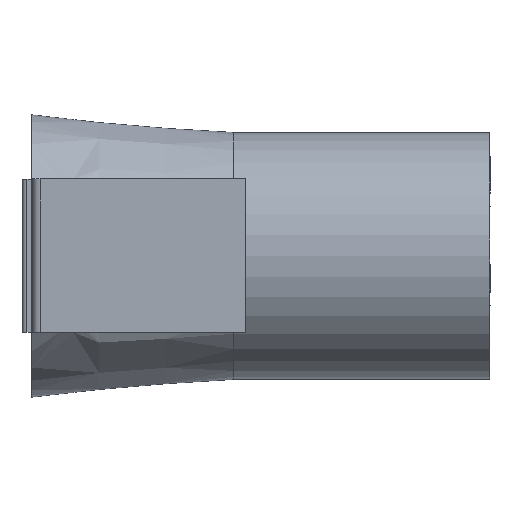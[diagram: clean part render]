
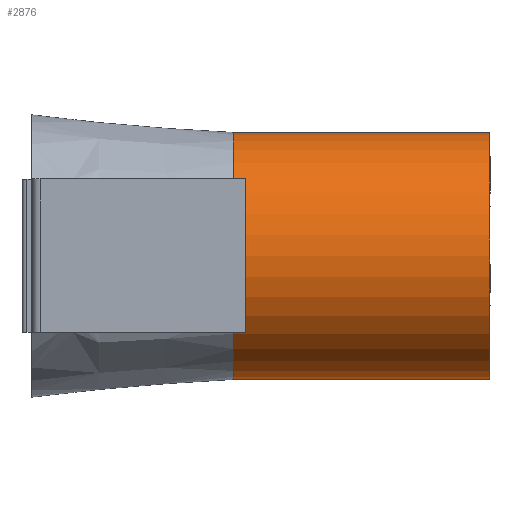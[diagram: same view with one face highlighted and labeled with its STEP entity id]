
A CAD part, top view. The second image highlights one B-rep face of the part: STEP entity #2876.
In plain terms, the highlighted cylindrical face has radius 7.5 mm (diameter 15 mm), a partial arc.
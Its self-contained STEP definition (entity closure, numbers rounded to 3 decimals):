
#80=CYLINDRICAL_SURFACE('',#3060,7.5);
#128=CIRCLE('',#3052,7.5);
#136=CIRCLE('',#3061,7.5);
#211=FACE_OUTER_BOUND('',#367,.T.);
#367=EDGE_LOOP('',(#1964,#1965,#1966,#1967));
#543=LINE('',#4027,#867);
#568=LINE('',#4117,#892);
#867=VECTOR('',#3272,10.);
#892=VECTOR('',#3323,10.);
#1194=VERTEX_POINT('',#4009);
#1201=VERTEX_POINT('',#4025);
#1226=VERTEX_POINT('',#4079);
#1238=VERTEX_POINT('',#4115);
#1491=EDGE_CURVE('',#1194,#1201,#543,.T.);
#1516=EDGE_CURVE('',#1194,#1226,#128,.T.);
#1529=EDGE_CURVE('',#1201,#1238,#136,.T.);
#1530=EDGE_CURVE('',#1238,#1226,#568,.T.);
#1964=ORIENTED_EDGE('',*,*,#1491,.T.);
#1965=ORIENTED_EDGE('',*,*,#1529,.T.);
#1966=ORIENTED_EDGE('',*,*,#1530,.T.);
#1967=ORIENTED_EDGE('',*,*,#1516,.F.);
#2876=ADVANCED_FACE('',(#211),#80,.T.);
#3052=AXIS2_PLACEMENT_3D('',#4080,#3303,#3304);
#3060=AXIS2_PLACEMENT_3D('',#4114,#3319,#3320);
#3061=AXIS2_PLACEMENT_3D('',#4116,#3321,#3322);
#3272=DIRECTION('',(1.,0.,0.));
#3303=DIRECTION('center_axis',(-1.,0.,0.));
#3304=DIRECTION('ref_axis',(0.,-1.,0.));
#3319=DIRECTION('center_axis',(-1.,0.,0.));
#3320=DIRECTION('ref_axis',(0.,-1.,0.));
#3321=DIRECTION('center_axis',(-1.,0.,0.));
#3322=DIRECTION('ref_axis',(0.,0.,1.));
#3323=DIRECTION('',(-1.,0.,0.));
#4009=CARTESIAN_POINT('',(11.43,-3.005,-6.872));
#4025=CARTESIAN_POINT('',(27.,-3.005,-6.872));
#4027=CARTESIAN_POINT('',(19.215,-3.005,-6.872));
#4079=CARTESIAN_POINT('',(11.43,3.005,-6.872));
#4080=CARTESIAN_POINT('Origin',(11.43,0.,
0.));
#4114=CARTESIAN_POINT('Origin',(19.215,0.,
0.));
#4115=CARTESIAN_POINT('',(27.,3.005,-6.872));
#4116=CARTESIAN_POINT('Origin',(27.,0.,0.));
#4117=CARTESIAN_POINT('',(19.215,3.005,-6.872));
